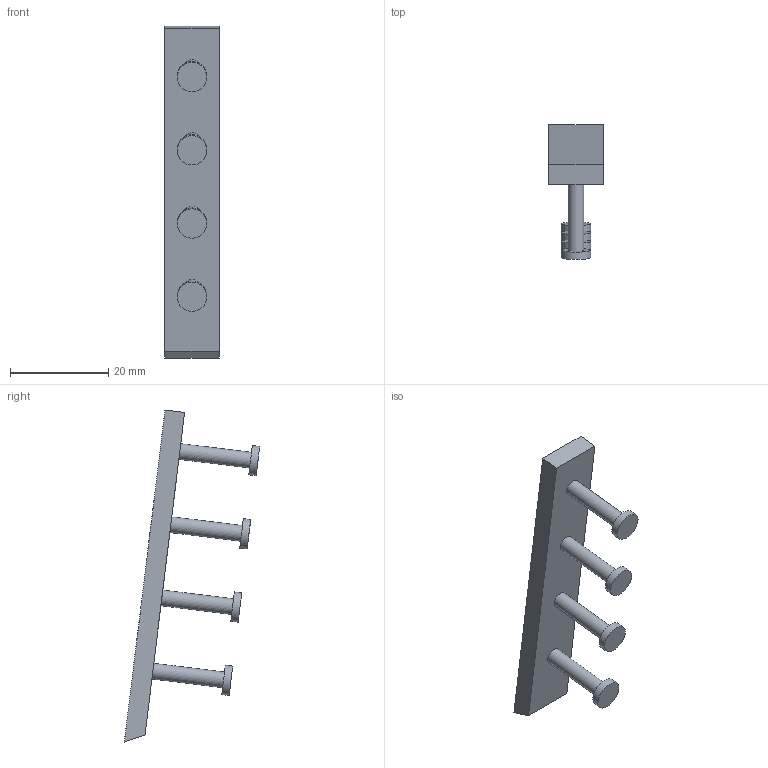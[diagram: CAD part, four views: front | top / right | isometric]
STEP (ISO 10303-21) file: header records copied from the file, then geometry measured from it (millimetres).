
FILE_DESCRIPTION(('Open CASCADE Model'),'2;1');
FILE_NAME('Open CASCADE Shape Model','2026-10-16T02:10:56',('Author'),( 'Open CASCADE'),'Open CASCADE STEP processor 7.9','Open CASCADE 7.9' ,'Unknown');
FILE_SCHEMA(('AUTOMOTIVE_DESIGN { 1 0 10303 214 1 1 1 1 }'));
Length unit declared in the file: millimetre
Products named in the file (1): Open CASCADE STEP translator 7.9 19
Bounding box: 11 x 27.53 x 67.49 mm (x, y, z)
Volume: 3587.1 mm3; surface area: 2962.6 mm2
Topology: 1 solids, 1 shells, 22 faces, 36 edges, 24 vertices
Faces by surface type: plane 14, cylinder 8
Full cylindrical faces by diameter (mm): 3.2 x4, 6 x4
Entity records: 1006 total; most frequent: CARTESIAN_POINT 179, DIRECTION 166, LINE 76, VECTOR 76, ORIENTED_EDGE 72, PCURVE 72, DEFINITIONAL_REPRESENTATION 72, AXIS2_PLACEMENT_3D 39
